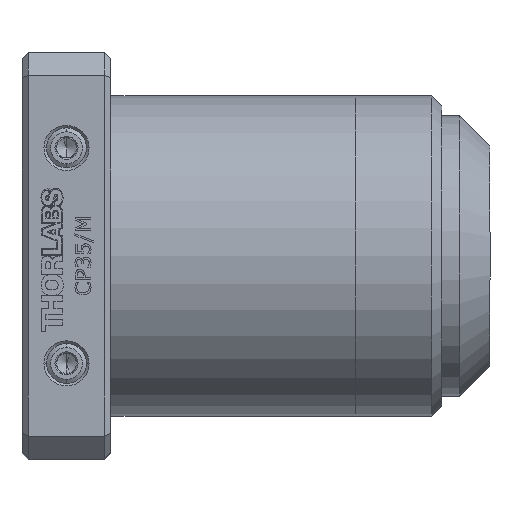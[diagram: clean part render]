
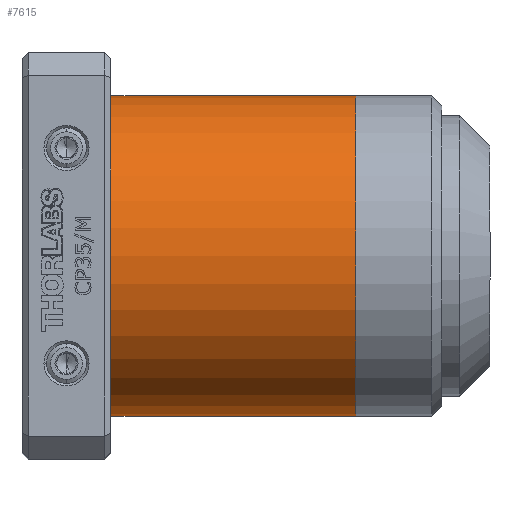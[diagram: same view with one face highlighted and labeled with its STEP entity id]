
A CAD part, top view. The second image highlights one B-rep face of the part: STEP entity #7615.
In plain terms, the highlighted cylindrical face has radius 16 mm (diameter 32 mm), a partial arc.
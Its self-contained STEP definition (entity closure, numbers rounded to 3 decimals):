
#192 = EDGE_CURVE ( 'NONE', #3253, #10012, #7300, .T. ) ;
#957 = DIRECTION ( 'NONE',  ( 0., 0., 1. ) ) ;
#1668 = VERTEX_POINT ( 'NONE', #15169 ) ;
#2126 = LINE ( 'NONE', #8100, #4568 ) ;
#2166 = EDGE_CURVE ( 'NONE', #17616, #1668, #13263, .T. ) ;
#2894 = CARTESIAN_POINT ( 'NONE',  ( 0., 16., 8.9 ) ) ;
#3253 = VERTEX_POINT ( 'NONE', #2894 ) ;
#3782 = DIRECTION ( 'NONE',  ( 0., 0., -1. ) ) ;
#4472 = DIRECTION ( 'NONE',  ( 0., 0., -1. ) ) ;
#4568 = VECTOR ( 'NONE', #3782, 1000. ) ;
#4665 = CYLINDRICAL_SURFACE ( 'NONE', #5249, 16. ) ;
#5249 = AXIS2_PLACEMENT_3D ( 'NONE', #17866, #4472, #13579 ) ;
#5624 = DIRECTION ( 'NONE',  ( 0., -1., 0. ) ) ;
#6074 = AXIS2_PLACEMENT_3D ( 'NONE', #12710, #957, #14456 ) ;
#6447 = ORIENTED_EDGE ( 'NONE', *, *, #192, .T. ) ;
#7253 = AXIS2_PLACEMENT_3D ( 'NONE', #13267, #10335, #5624 ) ;
#7300 = CIRCLE ( 'NONE', #7253, 16. ) ;
#7615 = ADVANCED_FACE ( 'NONE', ( #7701 ), #4665, .T. ) ;
#7701 = FACE_OUTER_BOUND ( 'NONE', #17482, .T. ) ;
#8100 = CARTESIAN_POINT ( 'NONE',  ( 0., 16., 33.36 ) ) ;
#9031 = ORIENTED_EDGE ( 'NONE', *, *, #10626, .F. ) ;
#9372 = CARTESIAN_POINT ( 'NONE',  ( 0., -16., 8.9 ) ) ;
#10012 = VERTEX_POINT ( 'NONE', #9372 ) ;
#10056 = VECTOR ( 'NONE', #14695, 1000. ) ;
#10335 = DIRECTION ( 'NONE',  ( 0., 0., 1. ) ) ;
#10626 = EDGE_CURVE ( 'NONE', #1668, #10012, #17428, .T. ) ;
#11469 = CARTESIAN_POINT ( 'NONE',  ( 0., -16., 33.36 ) ) ;
#12205 = ORIENTED_EDGE ( 'NONE', *, *, #13991, .T. ) ;
#12242 = CARTESIAN_POINT ( 'NONE',  ( 0., 16., 33.36 ) ) ;
#12710 = CARTESIAN_POINT ( 'NONE',  ( 0., 0., 33.36 ) ) ;
#13263 = CIRCLE ( 'NONE', #6074, 16. ) ;
#13267 = CARTESIAN_POINT ( 'NONE',  ( 0., 0., 8.9 ) ) ;
#13579 = DIRECTION ( 'NONE',  ( 0., -1., 0. ) ) ;
#13991 = EDGE_CURVE ( 'NONE', #17616, #3253, #2126, .T. ) ;
#14456 = DIRECTION ( 'NONE',  ( 0., -1., 0. ) ) ;
#14695 = DIRECTION ( 'NONE',  ( 0., 0., -1. ) ) ;
#15169 = CARTESIAN_POINT ( 'NONE',  ( 0., -16., 33.36 ) ) ;
#16829 = ORIENTED_EDGE ( 'NONE', *, *, #2166, .F. ) ;
#17428 = LINE ( 'NONE', #11469, #10056 ) ;
#17482 = EDGE_LOOP ( 'NONE', ( #16829, #12205, #6447, #9031 ) ) ;
#17616 = VERTEX_POINT ( 'NONE', #12242 ) ;
#17866 = CARTESIAN_POINT ( 'NONE',  ( 0., 0., 33.36 ) ) ;
